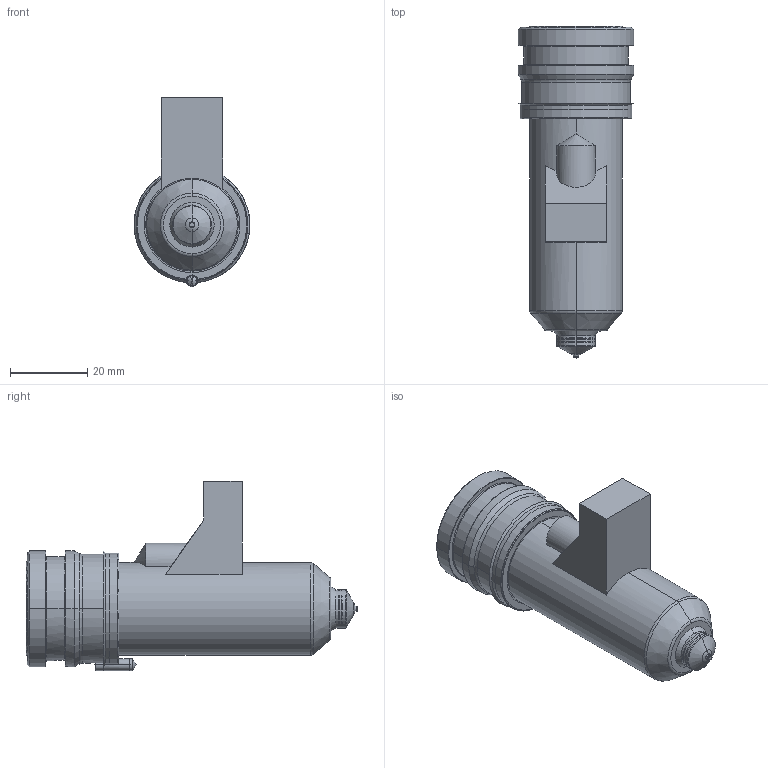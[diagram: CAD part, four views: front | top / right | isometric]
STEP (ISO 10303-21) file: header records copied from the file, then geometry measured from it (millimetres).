
FILE_DESCRIPTION((''),'2;1');
FILE_NAME('MPN-10-29-VSA10-066-M','2026-02-05T13:00:16',('UPTIO'),('Thermoplay S.p.A.'),'CREO PARAMETRIC BY PTC INC, 2023494','CREO PARAMETRIC BY PTC INC, 2023494','');
FILE_SCHEMA(('CONFIG_CONTROL_DESIGN','SHAPE_APPEARANCE_LAYERS_GROUPS'));
Length unit declared in the file: millimetre
Products named in the file (1): MPN-10-29-VSA10-066-M
Bounding box: 30 x 86 x 49 mm (x, y, z)
Volume: 28119.2 mm3; surface area: 28876.6 mm2
Topology: 3 solids, 5 shells, 546 faces, 1379 edges, 839 vertices
Faces by surface type: cylinder 181, plane 145, bspline 71, torus 69, cone 68, sphere 8, extrusion 4
Entity records: 28080 total; most frequent: CARTESIAN_POINT 12216, ORIENTED_EDGE 2744, DIRECTION 2618, EDGE_CURVE 1372, AXIS2_PLACEMENT_3D 1038, VERTEX_POINT 839, EDGE_LOOP 575, CIRCLE 566
